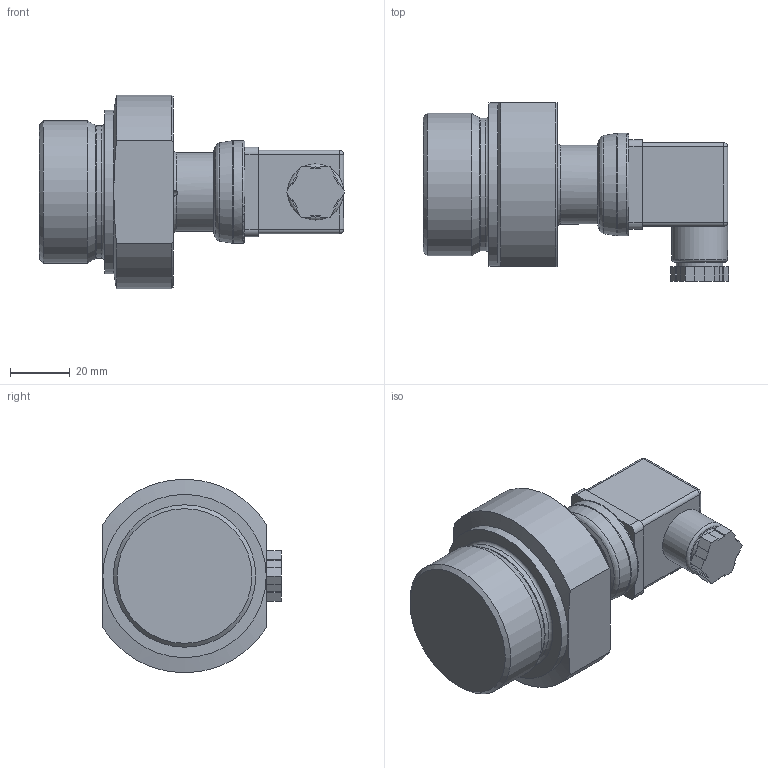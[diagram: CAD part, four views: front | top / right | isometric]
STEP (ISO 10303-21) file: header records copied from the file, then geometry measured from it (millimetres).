
FILE_DESCRIPTION(/* description */ (''),/* implementation_level */ '2;1');
FILE_NAME(/* name */ 'C:\Users\cz1231\Documents\modely ve step\LMK351_G11-2_DIN3852_nerez_ISO4400_standard.stp',/* time_stamp */ '2015-09-17T12:10:11+02:00',/* author */ ('cz1231'),/* organization */ (''),/* preprocessor_version */ 'ST-DEVELOPER v15.2',/* originating_system */ 'Autodesk Inventor 2014',/* authorisation */ '');
FILE_SCHEMA (('AUTOMOTIVE_DESIGN { 1 0 10303 214 3 1 1 }'));
Length unit declared in the file: millimetre
Products named in the file (1): 47.670.633
Bounding box: 102.46 x 60 x 65 mm (x, y, z)
Volume: 154629 mm3; surface area: 21599 mm2
Topology: 1 solids, 1 shells, 99 faces, 244 edges, 149 vertices
Faces by surface type: plane 57, cylinder 23, torus 8, cone 7, sphere 4
Full cylindrical faces by diameter (mm): 15.7 x1, 18.8 x1, 26.5 x1, 34.5 x1, 44.5 x1, 47.8 x1, 54.8 x1
Entity records: 2884 total; most frequent: CARTESIAN_POINT 521, DIRECTION 468, ORIENTED_EDGE 432, EDGE_CURVE 216, AXIS2_PLACEMENT_3D 163, VERTEX_POINT 144, LINE 142, VECTOR 142
